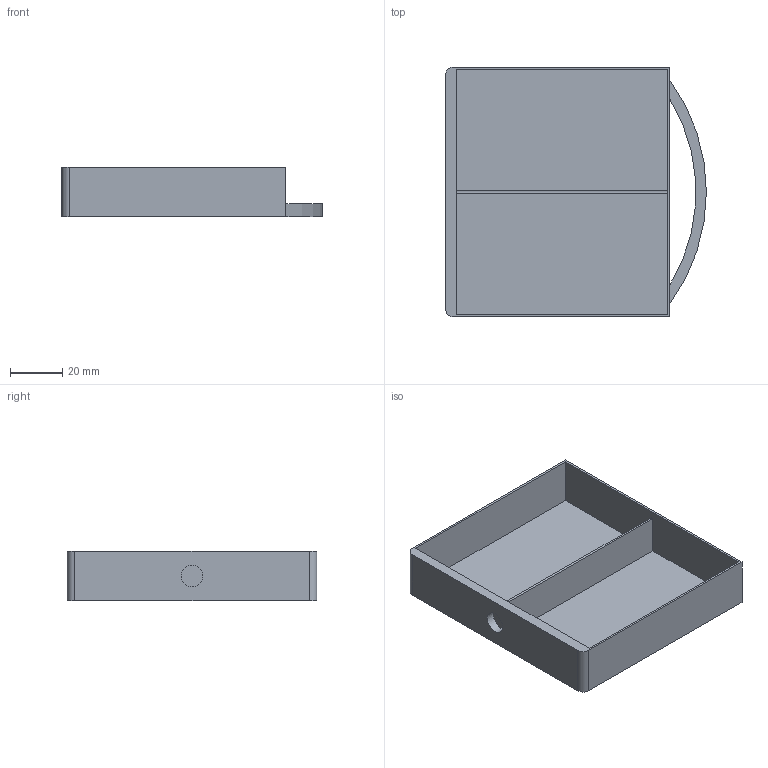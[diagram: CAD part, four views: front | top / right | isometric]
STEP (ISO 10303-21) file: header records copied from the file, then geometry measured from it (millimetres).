
FILE_DESCRIPTION(/* description */ (''),/* implementation_level */ '2;1');
FILE_NAME(/* name */ 'C:/Users/pet3r/Desktop/3D/MOJE/My Drawers/STEP/Drawer 2x1 2-slot.step',/* time_stamp */ '2018-03-31T21:34:25+02:00',/* author */ (''),/* organization */ (''),/* preprocessor_version */ 'ST-DEVELOPER v16.13',/* originating_system */ 'Autodesk Translation Framework v6.5.0.72',/* authorisation */ '');
FILE_SCHEMA (('AUTOMOTIVE_DESIGN { 1 0 10303 214 3 1 1 }'));
Length unit declared in the file: millimetre
Products named in the file (1): Drawer 2x1 2-slot
Bounding box: 100 x 95.8 x 19 mm (x, y, z)
Volume: 21081.1 mm3; surface area: 33609.9 mm2
Topology: 1 solids, 1 shells, 22 faces, 57 edges, 38 vertices
Faces by surface type: plane 16, cylinder 6
Full cylindrical faces by diameter (mm): 8.3 x1
Entity records: 717 total; most frequent: CARTESIAN_POINT 118, DIRECTION 115, ORIENTED_EDGE 114, EDGE_CURVE 57, LINE 45, VECTOR 45, VERTEX_POINT 38, AXIS2_PLACEMENT_3D 35
